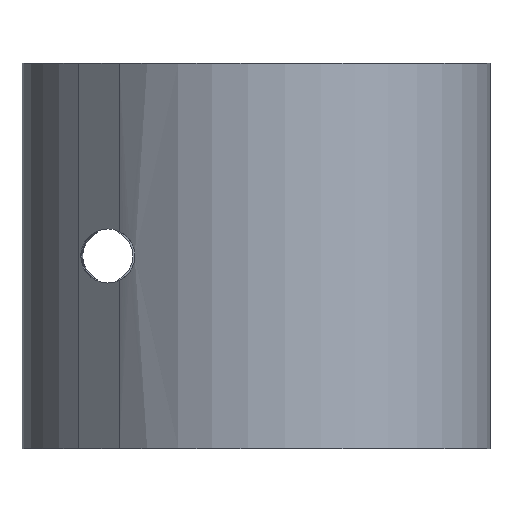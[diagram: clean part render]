
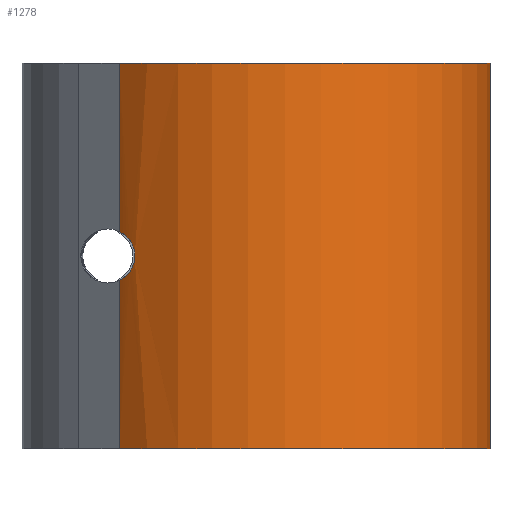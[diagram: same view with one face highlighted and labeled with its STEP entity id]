
A CAD part, left-side view. The second image highlights one B-rep face of the part: STEP entity #1278.
In plain terms, the highlighted cylindrical face has radius 11.25 mm (diameter 22.5 mm), a partial arc.
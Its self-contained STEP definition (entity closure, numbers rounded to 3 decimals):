
#42=B_SPLINE_CURVE_WITH_KNOTS('',3,(#2313,#2314,#2315,#2316,#2317,#2318,
#2319,#2320,#2321,#2322,#2323,#2324,#2325,#2326,#2327),.UNSPECIFIED.,.F.,
 .F.,(4,2,2,3,2,2,4),(-0.172,-0.103,-0.051,
0.,0.051,0.103,0.172),
 .UNSPECIFIED.);
#64=CYLINDRICAL_SURFACE('',#1415,11.25);
#122=CIRCLE('',#1411,11.25);
#125=CIRCLE('',#1416,11.25);
#182=FACE_OUTER_BOUND('',#262,.T.);
#262=EDGE_LOOP('',(#1017,#1018,#1019,#1020,#1021,#1022));
#343=LINE('',#2331,#451);
#347=LINE('',#2338,#455);
#348=LINE('',#2347,#456);
#451=VECTOR('',#1654,10.);
#455=VECTOR('',#1658,10.);
#456=VECTOR('',#1671,10.);
#579=VERTEX_POINT('',#2310);
#580=VERTEX_POINT('',#2312);
#581=VERTEX_POINT('',#2330);
#584=VERTEX_POINT('',#2336);
#585=VERTEX_POINT('',#2340);
#586=VERTEX_POINT('',#2345);
#733=EDGE_CURVE('',#580,#579,#42,.T.);
#735=EDGE_CURVE('',#580,#581,#343,.T.);
#739=EDGE_CURVE('',#584,#579,#347,.T.);
#741=EDGE_CURVE('',#585,#584,#122,.T.);
#744=EDGE_CURVE('',#585,#586,#348,.T.);
#745=EDGE_CURVE('',#581,#586,#125,.T.);
#1017=ORIENTED_EDGE('',*,*,#733,.T.);
#1018=ORIENTED_EDGE('',*,*,#739,.F.);
#1019=ORIENTED_EDGE('',*,*,#741,.F.);
#1020=ORIENTED_EDGE('',*,*,#744,.T.);
#1021=ORIENTED_EDGE('',*,*,#745,.F.);
#1022=ORIENTED_EDGE('',*,*,#735,.F.);
#1278=ADVANCED_FACE('',(#182),#64,.T.);
#1411=AXIS2_PLACEMENT_3D('',#2342,#1663,#1664);
#1415=AXIS2_PLACEMENT_3D('',#2348,#1672,#1673);
#1416=AXIS2_PLACEMENT_3D('',#2349,#1674,#1675);
#1654=DIRECTION('',(0.,0.,1.));
#1658=DIRECTION('',(0.,0.,1.));
#1663=DIRECTION('center_axis',(0.,0.,-1.));
#1664=DIRECTION('ref_axis',(-0.707,0.707,0.));
#1671=DIRECTION('',(0.,0.,1.));
#1672=DIRECTION('center_axis',(0.,0.,1.));
#1673=DIRECTION('ref_axis',(-0.627,-0.779,0.));
#1674=DIRECTION('center_axis',(0.,0.,1.));
#1675=DIRECTION('ref_axis',(-0.707,0.707,0.));
#2310=CARTESIAN_POINT('',(-7.955,7.955,-1.267));
#2312=CARTESIAN_POINT('',(-7.955,7.955,1.267));
#2313=CARTESIAN_POINT('Ctrl Pts',(-7.955,7.955,1.267));
#2314=CARTESIAN_POINT('Ctrl Pts',(-8.121,7.789,1.19));
#2315=CARTESIAN_POINT('Ctrl Pts',(-8.269,7.63,1.074));
#2316=CARTESIAN_POINT('Ctrl Pts',(-8.474,7.401,0.813));
#2317=CARTESIAN_POINT('Ctrl Pts',(-8.553,7.309,0.671));
#2318=CARTESIAN_POINT('Ctrl Pts',(-8.658,7.184,0.35));
#2319=CARTESIAN_POINT('Ctrl Pts',(-8.686,7.15,0.171));
#2320=CARTESIAN_POINT('Ctrl Pts',(-8.686,7.15,0.));
#2321=CARTESIAN_POINT('Ctrl Pts',(-8.686,7.15,-0.171));
#2322=CARTESIAN_POINT('Ctrl Pts',(-8.658,7.184,-0.35));
#2323=CARTESIAN_POINT('Ctrl Pts',(-8.553,7.309,-0.671));
#2324=CARTESIAN_POINT('Ctrl Pts',(-8.474,7.401,-0.813));
#2325=CARTESIAN_POINT('Ctrl Pts',(-8.269,7.63,-1.074));
#2326=CARTESIAN_POINT('Ctrl Pts',(-8.121,7.789,-1.19));
#2327=CARTESIAN_POINT('Ctrl Pts',(-7.955,7.955,-1.267));
#2330=CARTESIAN_POINT('',(-7.955,7.955,10.));
#2331=CARTESIAN_POINT('',(-7.955,7.955,0.));
#2336=CARTESIAN_POINT('',(-7.955,7.955,-10.));
#2338=CARTESIAN_POINT('',(-7.955,7.955,0.));
#2340=CARTESIAN_POINT('',(9.465,-6.081,-10.));
#2342=CARTESIAN_POINT('Origin',(0.,0.,-10.));
#2345=CARTESIAN_POINT('',(9.465,-6.081,10.));
#2347=CARTESIAN_POINT('',(9.465,-6.081,0.));
#2348=CARTESIAN_POINT('Origin',(0.,0.,0.));
#2349=CARTESIAN_POINT('Origin',(0.,0.,10.));
